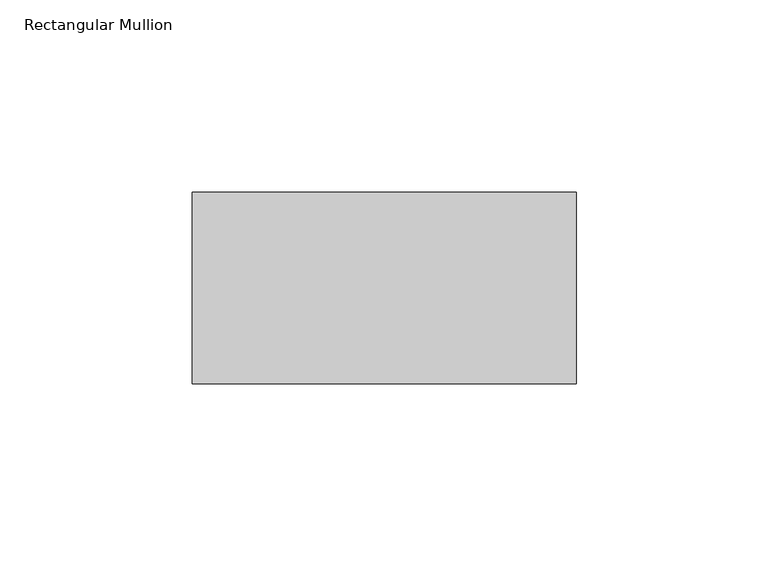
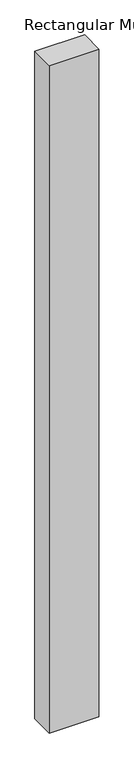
"""IFC4 building model written with IfcOpenShell, lengths in millimetres: member geometry, Rectangular Mullion : Mullion_Curtain Wall_Generic Showcase_50x100mm."""

from ifc_helpers import new_model, si_unit, frame, origin, place, context, project, spatial, polyline, outline, extrude, source, transform, mapped, element, save


def rectangular_mullion_d86f52d7(model_context):
    return source(origin(), model_context, "Body", "SweptSolid", [
        extrude(outline(polyline([(0.0, 50.0), (0.0, 0.0), (-100.0, 0.0), (-100.0, 50.0), (0.0, 50.0)])), frame((0.0, 0.0, -1419.45347), z_axis=(0.0, 0.0, 1.0), x_axis=(1.0, 0.0, 0.0)), (0.0, 0.0, 1.0), 1419.45347),
    ])


if __name__ == "__main__":
    model = new_model("IFC4")
    model_context = context("Model", 3, world=origin())
    ifc_project = project(units=[si_unit("LENGTHUNIT", "METRE", prefix="MILLI")], contexts=[model_context])
    site = spatial("IfcSite", under=ifc_project)
    building = spatial("IfcBuilding", under=site)
    placement = place(None, origin())
    rectangular_mullion_shape = rectangular_mullion_d86f52d7(model_context)
    element("IfcMember", 1, ObjectType="Rectangular Mullion : Mullion_Curtain Wall_Generic Showcase_50x100mm", at=placement, inside=building, context=model_context, shape_type="MappedRepresentation", body=[
        mapped(rectangular_mullion_shape, transform((0.0, 0.0, 0.0), x_axis=(1.0, 0.0, 0.0), y_axis=(0.0, 1.0, 0.0), z_axis=(0.0, 0.0, 1.0))),
    ])
    save(model, "model.ifc")
